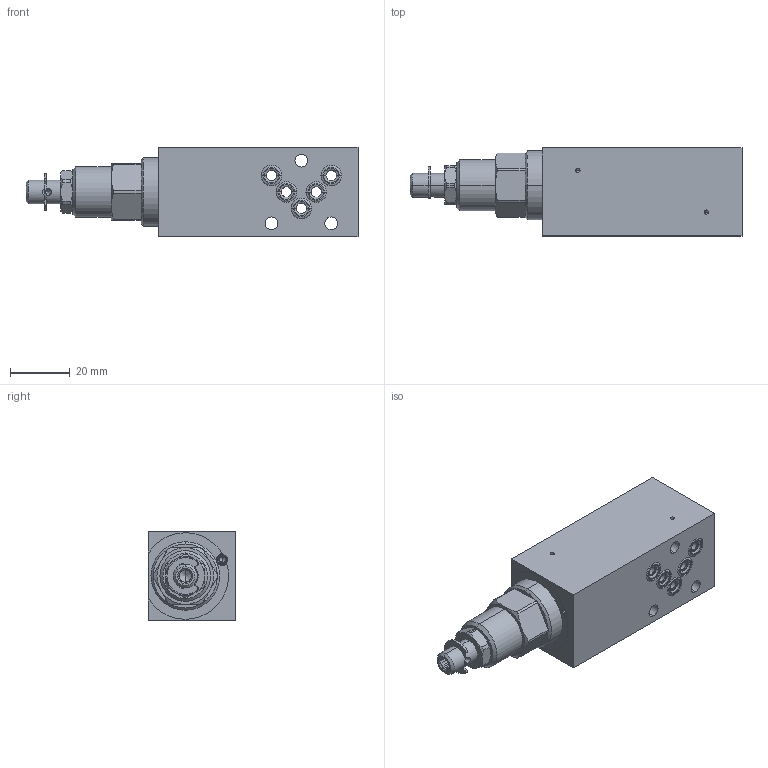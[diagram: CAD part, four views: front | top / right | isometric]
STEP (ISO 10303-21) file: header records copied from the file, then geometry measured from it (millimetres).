
FILE_DESCRIPTION (( 'STEP AP214' ), '1' );
FILE_NAME ('B.SSA03-A.STEP', '2017-03-23T06:48:01', ( '' ), ( '' ), 'SwSTEP 2.0', 'SolidWorks 2016', '' );
FILE_SCHEMA (( 'AUTOMOTIVE_DESIGN' ));
Length unit declared in the file: millimetre
Products named in the file (1): B.SSA03-A
Bounding box: 111.3 x 29.5 x 30 mm (x, y, z)
Volume: 65913.2 mm3; surface area: 15521.9 mm2
Topology: 8 solids, 9 shells, 307 faces, 783 edges, 496 vertices
Faces by surface type: plane 110, cylinder 107, cone 50, bspline 40
Entity records: 13499 total; most frequent: CARTESIAN_POINT 2731, DIRECTION 1554, ORIENTED_EDGE 1538, EDGE_CURVE 769, AXIS2_PLACEMENT_3D 641, VERTEX_POINT 496, CIRCLE 373, EDGE_LOOP 349
